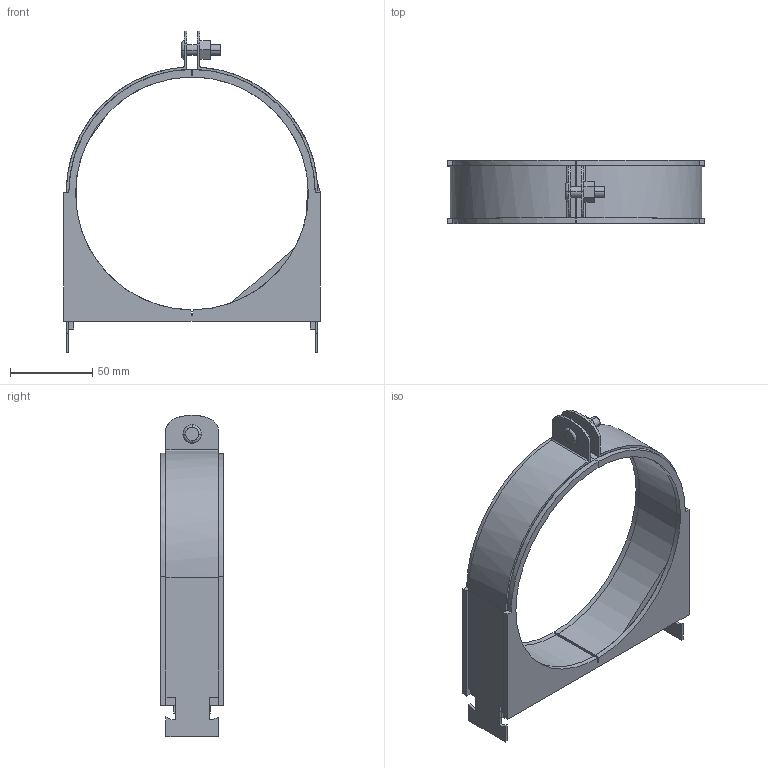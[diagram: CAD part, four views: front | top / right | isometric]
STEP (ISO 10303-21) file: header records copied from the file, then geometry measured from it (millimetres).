
FILE_DESCRIPTION(('TurboCAD Mac Pro'),'Build 980');
FILE_NAME('089N096.stp',' ',(''),(''),'ACIS Interop','IMSI','TurboCAD Mac Pro BY IMSI, INCORPORATED');
FILE_SCHEMA(('automotive_design'));
Length unit declared in the file: inch
Products named in the file (3): 1; 2; 3
Bounding box: 155.81 x 38.1 x 194.82 mm (x, y, z)
Volume: 208519.5 mm3; surface area: 81131.5 mm2
Topology: 3 solids, 3 shells, 149 faces, 392 edges, 254 vertices
Faces by surface type: plane 103, bspline 46
Entity records: 7190 total; most frequent: CARTESIAN_POINT 1770, ORIENTED_EDGE 784, DIRECTION 498, EDGE_CURVE 392, STYLED_ITEM 320, PRESENTATION_STYLE_ASSIGNMENT 320, COLOUR_RGB 320, LINE 278
